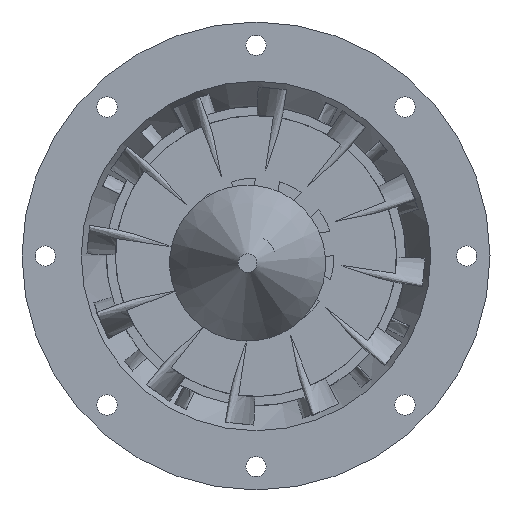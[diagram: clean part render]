
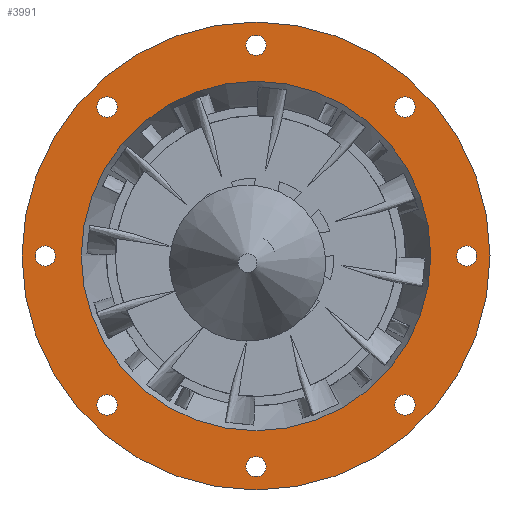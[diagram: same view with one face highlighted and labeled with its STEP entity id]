
A CAD part, left-side view. The second image highlights one B-rep face of the part: STEP entity #3991.
In plain terms, the highlighted planar face has unit normal (-1, 0, 0).
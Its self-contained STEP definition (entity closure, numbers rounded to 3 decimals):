
#322=FACE_BOUND('',#793,.T.);
#323=FACE_BOUND('',#794,.T.);
#324=FACE_BOUND('',#795,.T.);
#325=FACE_BOUND('',#796,.T.);
#326=FACE_BOUND('',#797,.T.);
#327=FACE_BOUND('',#798,.T.);
#328=FACE_BOUND('',#799,.T.);
#329=FACE_BOUND('',#800,.T.);
#330=FACE_BOUND('',#801,.T.);
#463=PLANE('',#4389);
#561=FACE_OUTER_BOUND('',#792,.T.);
#792=EDGE_LOOP('',(#2795));
#793=EDGE_LOOP('',(#2796));
#794=EDGE_LOOP('',(#2797));
#795=EDGE_LOOP('',(#2798));
#796=EDGE_LOOP('',(#2799));
#797=EDGE_LOOP('',(#2800));
#798=EDGE_LOOP('',(#2801));
#799=EDGE_LOOP('',(#2802));
#800=EDGE_LOOP('',(#2803));
#801=EDGE_LOOP('',(#2804));
#1572=CIRCLE('',#4356,3.25);
#1574=CIRCLE('',#4359,3.25);
#1576=CIRCLE('',#4362,3.25);
#1578=CIRCLE('',#4365,3.25);
#1580=CIRCLE('',#4368,3.25);
#1582=CIRCLE('',#4371,3.25);
#1584=CIRCLE('',#4374,3.25);
#1586=CIRCLE('',#4377,3.25);
#1592=CIRCLE('',#4386,75.);
#1594=CIRCLE('',#4390,56.);
#1733=VERTEX_POINT('',#5763);
#1735=VERTEX_POINT('',#5769);
#1737=VERTEX_POINT('',#5775);
#1739=VERTEX_POINT('',#5781);
#1741=VERTEX_POINT('',#5787);
#1743=VERTEX_POINT('',#5793);
#1745=VERTEX_POINT('',#5799);
#1747=VERTEX_POINT('',#5805);
#1753=VERTEX_POINT('',#5822);
#1755=VERTEX_POINT('',#5829);
#2144=EDGE_CURVE('',#1733,#1733,#1572,.T.);
#2147=EDGE_CURVE('',#1735,#1735,#1574,.T.);
#2150=EDGE_CURVE('',#1737,#1737,#1576,.T.);
#2153=EDGE_CURVE('',#1739,#1739,#1578,.T.);
#2156=EDGE_CURVE('',#1741,#1741,#1580,.T.);
#2159=EDGE_CURVE('',#1743,#1743,#1582,.T.);
#2162=EDGE_CURVE('',#1745,#1745,#1584,.T.);
#2165=EDGE_CURVE('',#1747,#1747,#1586,.T.);
#2174=EDGE_CURVE('',#1753,#1753,#1592,.T.);
#2176=EDGE_CURVE('',#1755,#1755,#1594,.T.);
#2795=ORIENTED_EDGE('',*,*,#2174,.F.);
#2796=ORIENTED_EDGE('',*,*,#2144,.T.);
#2797=ORIENTED_EDGE('',*,*,#2147,.T.);
#2798=ORIENTED_EDGE('',*,*,#2150,.T.);
#2799=ORIENTED_EDGE('',*,*,#2153,.T.);
#2800=ORIENTED_EDGE('',*,*,#2156,.T.);
#2801=ORIENTED_EDGE('',*,*,#2159,.T.);
#2802=ORIENTED_EDGE('',*,*,#2162,.T.);
#2803=ORIENTED_EDGE('',*,*,#2165,.T.);
#2804=ORIENTED_EDGE('',*,*,#2176,.T.);
#3991=ADVANCED_FACE('',(#561,#322,#323,#324,#325,#326,#327,#328,#329,#330),
#463,.T.);
#4356=AXIS2_PLACEMENT_3D('',#5764,#4780,#4781);
#4359=AXIS2_PLACEMENT_3D('',#5770,#4787,#4788);
#4362=AXIS2_PLACEMENT_3D('',#5776,#4794,#4795);
#4365=AXIS2_PLACEMENT_3D('',#5782,#4801,#4802);
#4368=AXIS2_PLACEMENT_3D('',#5788,#4808,#4809);
#4371=AXIS2_PLACEMENT_3D('',#5794,#4815,#4816);
#4374=AXIS2_PLACEMENT_3D('',#5800,#4822,#4823);
#4377=AXIS2_PLACEMENT_3D('',#5806,#4829,#4830);
#4386=AXIS2_PLACEMENT_3D('',#5824,#4850,#4851);
#4389=AXIS2_PLACEMENT_3D('',#5828,#4856,#4857);
#4390=AXIS2_PLACEMENT_3D('',#5830,#4858,#4859);
#4780=DIRECTION('center_axis',(1.,0.,0.));
#4781=DIRECTION('ref_axis',(0.,0.707,-0.707));
#4787=DIRECTION('center_axis',(1.,0.,0.));
#4788=DIRECTION('ref_axis',(0.,0.,-1.));
#4794=DIRECTION('center_axis',(1.,0.,0.));
#4795=DIRECTION('ref_axis',(0.,-0.707,-0.707));
#4801=DIRECTION('center_axis',(1.,0.,0.));
#4802=DIRECTION('ref_axis',(0.,-1.,0.));
#4808=DIRECTION('center_axis',(1.,0.,0.));
#4809=DIRECTION('ref_axis',(0.,-0.707,0.707));
#4815=DIRECTION('center_axis',(1.,0.,0.));
#4816=DIRECTION('ref_axis',(0.,0.,1.));
#4822=DIRECTION('center_axis',(1.,0.,0.));
#4823=DIRECTION('ref_axis',(0.,0.707,0.707));
#4829=DIRECTION('center_axis',(1.,0.,0.));
#4830=DIRECTION('ref_axis',(0.,1.,0.));
#4850=DIRECTION('center_axis',(1.,0.,0.));
#4851=DIRECTION('ref_axis',(0.,0.,-1.));
#4856=DIRECTION('center_axis',(-1.,0.,0.));
#4857=DIRECTION('ref_axis',(0.,0.,1.));
#4858=DIRECTION('center_axis',(1.,0.,0.));
#4859=DIRECTION('ref_axis',(0.,0.,-1.));
#5763=CARTESIAN_POINT('',(0.,45.432,50.028));
#5764=CARTESIAN_POINT('Origin',(0.,47.73,47.73));
#5769=CARTESIAN_POINT('',(0.,67.5,3.25));
#5770=CARTESIAN_POINT('Origin',(0.,67.5,0.));
#5775=CARTESIAN_POINT('',(0.,50.028,-45.432));
#5776=CARTESIAN_POINT('Origin',(0.,47.73,-47.73));
#5781=CARTESIAN_POINT('',(0.,3.25,-67.5));
#5782=CARTESIAN_POINT('Origin',(0.,0.,
-67.5));
#5787=CARTESIAN_POINT('',(0.,-45.432,-50.028));
#5788=CARTESIAN_POINT('Origin',(0.,-47.73,
-47.73));
#5793=CARTESIAN_POINT('',(0.,-67.5,-3.25));
#5794=CARTESIAN_POINT('Origin',(0.,-67.5,0.));
#5799=CARTESIAN_POINT('',(0.,-50.028,45.432));
#5800=CARTESIAN_POINT('Origin',(0.,-47.73,
47.73));
#5805=CARTESIAN_POINT('',(0.,-3.25,67.5));
#5806=CARTESIAN_POINT('Origin',(0.,0.,67.5));
#5822=CARTESIAN_POINT('',(0.,-75.,0.));
#5824=CARTESIAN_POINT('Origin',(0.,0.,0.));
#5828=CARTESIAN_POINT('Origin',(0.,60.,0.));
#5829=CARTESIAN_POINT('',(0.,-56.,0.));
#5830=CARTESIAN_POINT('Origin',(0.,0.,0.));
